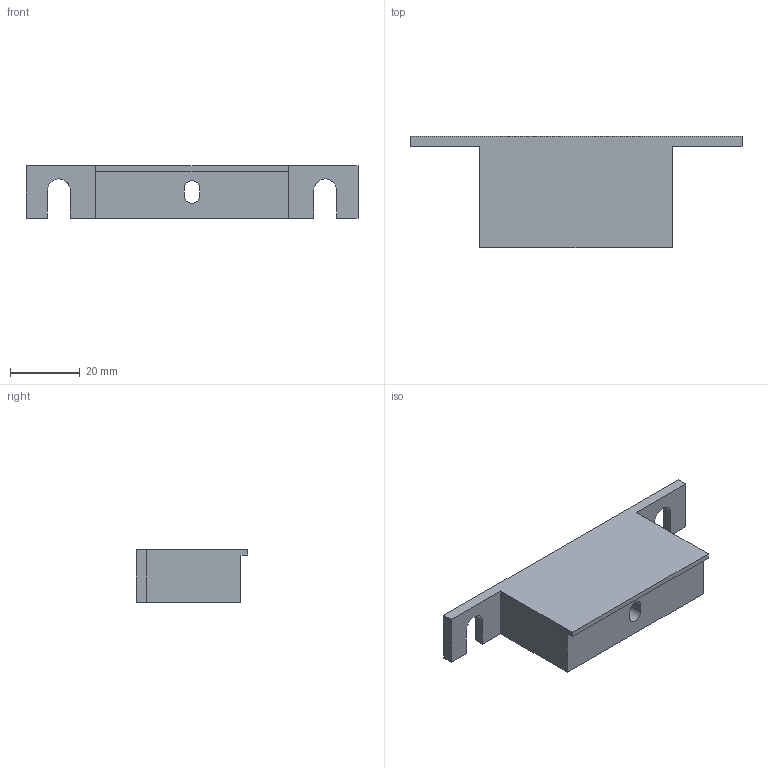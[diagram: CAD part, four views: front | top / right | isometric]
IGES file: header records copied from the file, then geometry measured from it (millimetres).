
Global section: file name: C30-BMP-30-UU; native system: Autodesk Inventor 2020; preprocessor: unknown; author: ka.nakajima; date: 20191004.133926; units: millimetre
Bounding box: 95 x 32 x 15 mm (x, y, z)
Volume: 24478.7 mm3; surface area: 8142.9 mm2
Topology: 1 solids, 1 shells, 31 faces, 85 edges, 57 vertices
Faces by surface type: bspline 31
